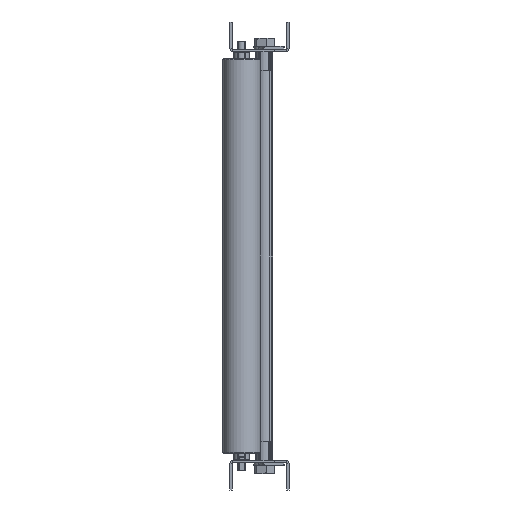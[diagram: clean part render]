
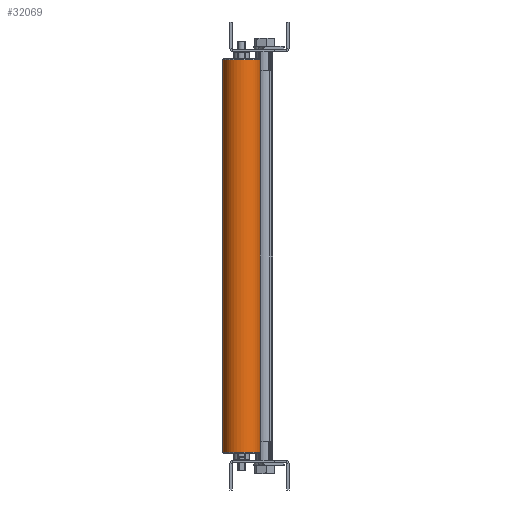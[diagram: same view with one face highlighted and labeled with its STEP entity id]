
A CAD part, left-side view. The second image highlights one B-rep face of the part: STEP entity #32069.
In plain terms, the highlighted cylindrical face has radius 19.05 mm (diameter 38.1 mm), a partial arc.
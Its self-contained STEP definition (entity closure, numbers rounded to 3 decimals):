
#426 = DIRECTION ( 'NONE',  ( 0., 0., -1. ) ) ;
#2084 = ORIENTED_EDGE ( 'NONE', *, *, #2590, .F. ) ;
#2590 = EDGE_CURVE ( 'NONE', #29003, #9815, #23712, .T. ) ;
#2750 = DIRECTION ( 'NONE',  ( 0., 0., -1. ) ) ;
#3456 = AXIS2_PLACEMENT_3D ( 'NONE', #13059, #4735, #4548 ) ;
#3829 = AXIS2_PLACEMENT_3D ( 'NONE', #35259, #426, #8753 ) ;
#4404 = AXIS2_PLACEMENT_3D ( 'NONE', #23285, #2750, #35051 ) ;
#4548 = DIRECTION ( 'NONE',  ( -0.056, -0.998, 0. ) ) ;
#4735 = DIRECTION ( 'NONE',  ( 0., 0., 1. ) ) ;
#8753 = DIRECTION ( 'NONE',  ( 0.056, 0.998, 0. ) ) ;
#8968 = CARTESIAN_POINT ( 'NONE',  ( -1940.533, 52.465, -770.041 ) ) ;
#9815 = VERTEX_POINT ( 'NONE', #13339 ) ;
#9963 = DIRECTION ( 'NONE',  ( 0., 0., -1. ) ) ;
#13059 = CARTESIAN_POINT ( 'NONE',  ( -1939.471, 71.485, -421.5 ) ) ;
#13081 = LINE ( 'NONE', #24709, #34722 ) ;
#13339 = CARTESIAN_POINT ( 'NONE',  ( -1940.533, 52.465, -421.5 ) ) ;
#14185 = VECTOR ( 'NONE', #20797, 1000. ) ;
#15156 = FACE_OUTER_BOUND ( 'NONE', #37105, .T. ) ;
#17764 = ORIENTED_EDGE ( 'NONE', *, *, #22711, .T. ) ;
#20797 = DIRECTION ( 'NONE',  ( 0., 0., -1. ) ) ;
#22711 = EDGE_CURVE ( 'NONE', #32203, #9815, #34956, .T. ) ;
#23285 = CARTESIAN_POINT ( 'NONE',  ( -1939.471, 71.485, -23.5 ) ) ;
#23712 = LINE ( 'NONE', #8968, #14185 ) ;
#24190 = CIRCLE ( 'NONE', #4404, 19.05 ) ;
#24709 = CARTESIAN_POINT ( 'NONE',  ( -1938.41, 90.506, -770.041 ) ) ;
#27573 = CARTESIAN_POINT ( 'NONE',  ( -1938.41, 90.506, -23.5 ) ) ;
#28223 = CARTESIAN_POINT ( 'NONE',  ( -1940.533, 52.465, -23.5 ) ) ;
#28963 = EDGE_CURVE ( 'NONE', #29003, #31822, #24190, .T. ) ;
#29003 = VERTEX_POINT ( 'NONE', #28223 ) ;
#29350 = ORIENTED_EDGE ( 'NONE', *, *, #29509, .T. ) ;
#29509 = EDGE_CURVE ( 'NONE', #31822, #32203, #13081, .T. ) ;
#30434 = CARTESIAN_POINT ( 'NONE',  ( -1938.41, 90.506, -421.5 ) ) ;
#31822 = VERTEX_POINT ( 'NONE', #27573 ) ;
#32069 = ADVANCED_FACE ( 'NONE', ( #15156 ), #38185, .T. ) ;
#32203 = VERTEX_POINT ( 'NONE', #30434 ) ;
#34722 = VECTOR ( 'NONE', #9963, 1000. ) ;
#34956 = CIRCLE ( 'NONE', #3456, 19.05 ) ;
#35051 = DIRECTION ( 'NONE',  ( 0.056, 0.998, 0. ) ) ;
#35259 = CARTESIAN_POINT ( 'NONE',  ( -1939.471, 71.485, -770.041 ) ) ;
#35273 = ORIENTED_EDGE ( 'NONE', *, *, #28963, .T. ) ;
#37105 = EDGE_LOOP ( 'NONE', ( #2084, #35273, #29350, #17764 ) ) ;
#38185 = CYLINDRICAL_SURFACE ( 'NONE', #3829, 19.05 ) ;
